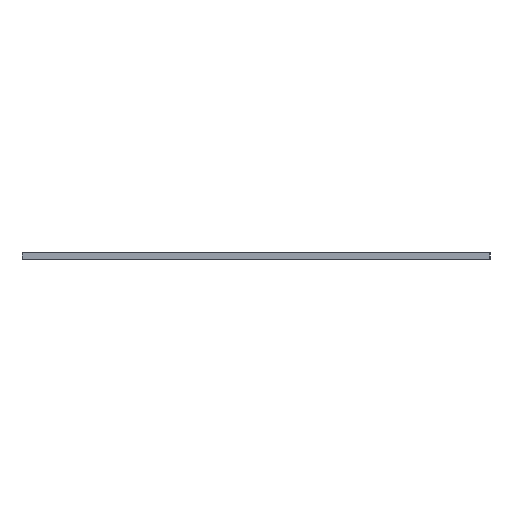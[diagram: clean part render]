
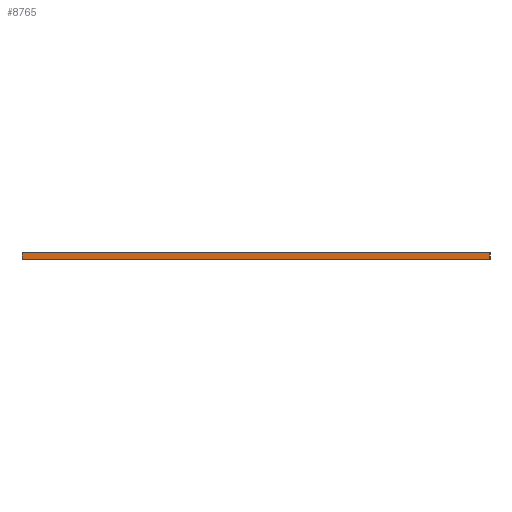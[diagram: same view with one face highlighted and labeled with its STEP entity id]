
A CAD part, left-side view. The second image highlights one B-rep face of the part: STEP entity #8765.
In plain terms, the highlighted planar face has unit normal (-1, 0, 0).
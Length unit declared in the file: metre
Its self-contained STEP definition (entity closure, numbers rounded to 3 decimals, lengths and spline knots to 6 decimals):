
#1384=ORIENTED_EDGE('',*,*,#3550,.T.);
#1385=ORIENTED_EDGE('',*,*,#3551,.F.);
#1386=ORIENTED_EDGE('',*,*,#3552,.F.);
#1387=ORIENTED_EDGE('',*,*,#3553,.T.);
#3550=EDGE_CURVE('',#4492,#4493,#5590,.T.);
#3551=EDGE_CURVE('',#4494,#4493,#5591,.T.);
#3552=EDGE_CURVE('',#4495,#4494,#5592,.T.);
#3553=EDGE_CURVE('',#4495,#4492,#5593,.T.);
#4492=VERTEX_POINT('',#13545);
#4493=VERTEX_POINT('',#13546);
#4494=VERTEX_POINT('',#13548);
#4495=VERTEX_POINT('',#13550);
#5590=LINE('',#13544,#6814);
#5591=LINE('',#13547,#6815);
#5592=LINE('',#13549,#6816);
#5593=LINE('',#13551,#6817);
#6814=VECTOR('',#11035,1.);
#6815=VECTOR('',#11036,1.);
#6816=VECTOR('',#11037,1.);
#6817=VECTOR('',#11038,1.);
#7291=EDGE_LOOP('',(#1384,#1385,#1386,#1387));
#7823=FACE_BOUND('',#7291,.T.);
#8355=PLANE('',#9188);
#8765=ADVANCED_FACE('',(#7823),#8355,.F.);
#9188=AXIS2_PLACEMENT_3D('',#13543,#11033,#11034);
#11033=DIRECTION('',(1.,0.,0.));
#11034=DIRECTION('',(0.,1.,0.));
#11035=DIRECTION('',(0.,-1.,0.));
#11036=DIRECTION('',(0.,0.,-1.));
#11037=DIRECTION('',(0.,-1.,0.));
#11038=DIRECTION('',(0.,0.,-1.));
#13543=CARTESIAN_POINT('',(-0.145875,0.000145,0.0015));
#13544=CARTESIAN_POINT('',(-0.145875,0.000145,0.));
#13545=CARTESIAN_POINT('',(-0.145875,0.051614,0.));
#13546=CARTESIAN_POINT('',(-0.145875,-0.050969,0.));
#13547=CARTESIAN_POINT('',(-0.145875,-0.050969,0.0015));
#13548=CARTESIAN_POINT('',(-0.145875,-0.050969,0.0015));
#13549=CARTESIAN_POINT('',(-0.145875,0.000145,0.0015));
#13550=CARTESIAN_POINT('',(-0.145875,0.051614,0.0015));
#13551=CARTESIAN_POINT('',(-0.145875,0.051614,0.0015));
